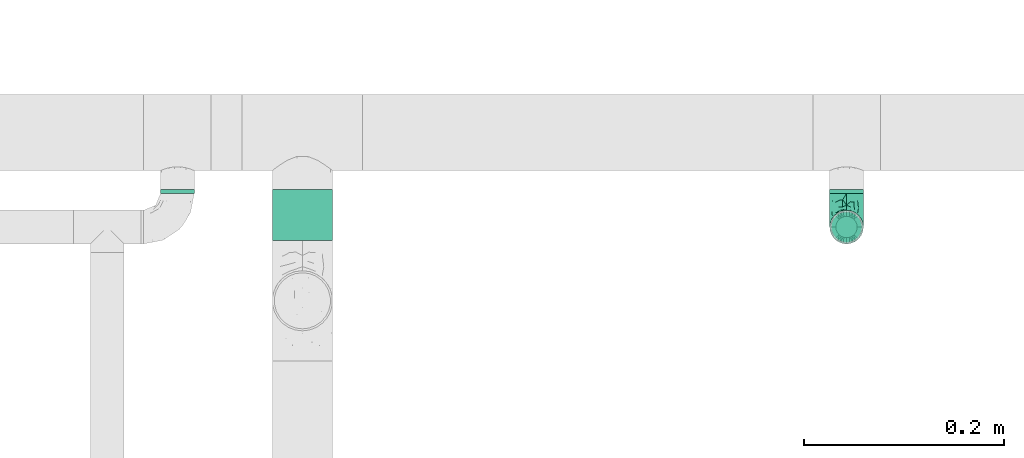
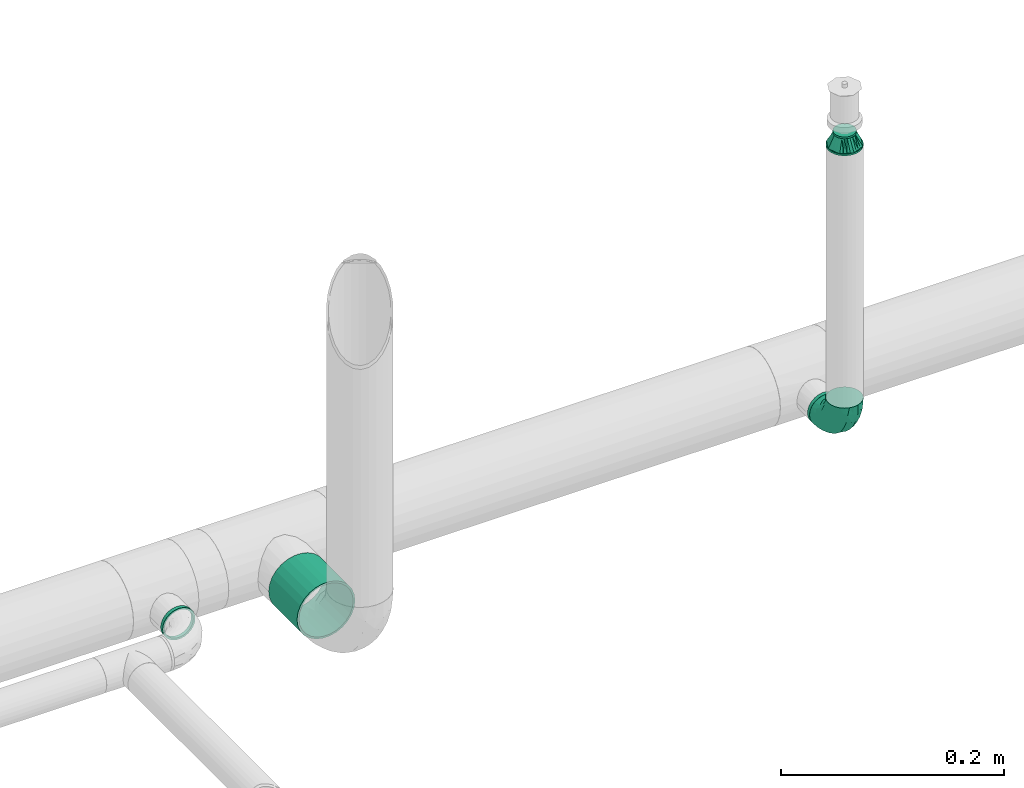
# One storey, part 110 of 157: 3 flow segments, 2 flow fittings.
"""IFC2X3 building model written with IfcOpenShell, lengths in millimetres."""

from ifc_helpers import new_model, entity, si_unit, converted_unit, derived_unit, direction, frame, origin_with_axes, origin_2d_with_axis, place, context, subcontext, project, spatial, hollow_circle, extrude, open_shell, surface_model, source, transform, mapped, type_object, element, save


model = new_model("IFC2X3")

# Units and contexts
model_context = context("Model", 3, precision=0.01, world=frame((0.0, 4.29681676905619e-09, 0.0)), true_north=direction((4.01073788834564e-13, 1.0)))
plan_context = context("Plan", 3, precision=0.01, world=frame((0.0, 4.29681676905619e-09, 0.0)), true_north=direction((4.01073788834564e-13, 1.0)))
body_context = subcontext(model_context, "Body", "Model", "MODEL_VIEW")
ifc_project = project(units=[converted_unit("PLANEANGLEUNIT", "DEGREE", entity("IfcPositiveLengthMeasure", 0.0174532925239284), si_unit("PLANEANGLEUNIT", "RADIAN"), dimensions=[0, 0, 0, 0, 0, 0, 0]), si_unit("AREAUNIT", "SQUARE_METRE"), si_unit("LENGTHUNIT", "METRE", prefix="MILLI"), si_unit("MASSUNIT", "GRAM", prefix="KILO"), si_unit("POWERUNIT", "WATT"), si_unit("PRESSUREUNIT", "PASCAL"), si_unit("FORCEUNIT", "NEWTON", prefix="KILO"), si_unit("ELECTRICCURRENTUNIT", "AMPERE"), si_unit("THERMODYNAMICTEMPERATUREUNIT", "DEGREE_CELSIUS"), si_unit("TIMEUNIT", "SECOND"), si_unit("VOLUMEUNIT", "CUBIC_METRE"), derived_unit("LINEARVELOCITYUNIT", [(si_unit("LENGTHUNIT", "METRE"), 1), (si_unit("TIMEUNIT", "SECOND"), -1)]), derived_unit("VOLUMETRICFLOWRATEUNIT", [(si_unit("VOLUMEUNIT", "CUBIC_METRE"), 1), (si_unit("TIMEUNIT", "SECOND"), -1)]), derived_unit("THERMALTRANSMITTANCEUNIT", [(si_unit("POWERUNIT", "WATT"), 1), (si_unit("THERMODYNAMICTEMPERATUREUNIT", "KELVIN"), -1), (si_unit("AREAUNIT", "SQUARE_METRE"), -1)])], contexts=[model_context, plan_context])

# Site, building, storey
site_placement = place(None, frame((0.0, -4.29681676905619e-09, 0.0), z_axis=(0.0, 0.0, 1.0), x_axis=(1.0, 0.0, 0.0)))
site = spatial("IfcSite", under=ifc_project, at=site_placement, CompositionType="ELEMENT")
building_placement = place(site_placement, frame((0.0, 4.29681676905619e-09, 0.0), z_axis=(0.0, 0.0, 1.0), x_axis=(1.0, 0.0, 0.0)))
building = spatial("IfcBuilding", under=site, at=building_placement, Name="mc-building", CompositionType="ELEMENT")
storey_placement = place(building_placement, frame((0.0, 0.0, 204000.0), z_axis=(0.0, 0.0, 1.0), x_axis=(1.0, 0.0, 0.0)))
storey = spatial("IfcBuildingStorey", under=building, at=storey_placement, Name="Nivå D", CompositionType="ELEMENT", Elevation=204000.0)

# Flow fittings
pipe_fitting_type_1 = type_object("IfcPipeFittingType", Name="magi_pipe_fe_elbow_short_001", PredefinedType="BEND")
shared_shape_1 = source(origin_with_axes(), body_context, "Body", "SurfaceModel", [
    surface_model("IfcShellBasedSurfaceModel", [(-33.8, 8.45, -14.63583), (-33.8, 4.37404, -16.32415), (-33.8, 11.9501, -11.9501), (-33.8, -11.9501, -11.9501), (-33.8, -14.63583, -8.45), (-33.8, -8.45, -14.63583), (-33.8, 0.0, -16.9), (-33.8, -4.37404, -16.32415), (-33.8, -4.37404, 16.32415), (-33.8, 0.0, 16.9), (-33.8, -8.45, 14.63583), (-33.8, 16.32415, -4.37404), (-33.8, 14.63583, -8.45), (-33.8, -16.32415, -4.37404), (-33.8, -16.9, 0.0), (-33.8, -16.32415, 4.37404), (-33.8, 11.9501, 11.9501), (-33.8, 14.63583, 8.45), (-33.8, 16.32415, 4.37404), (-33.8, 4.37404, 16.32415), (-33.8, 8.45, 14.63583), (-33.8, -14.63583, 8.45), (-33.8, -11.9501, 11.9501), (-33.8, 16.9, 0.0), (-11.9501, 33.8, -11.9501), (0.0, 33.8, -16.9), (-4.37404, 33.8, -16.32415), (-8.45, 33.8, -14.63583), (-14.63583, 33.8, -8.45), (-16.32415, 33.8, -4.37404), (14.63583, 33.8, -8.45), (8.45, 33.8, 14.63583), (16.32415, 33.8, -4.37404), (8.45, 33.8, -14.63583), (11.9501, 33.8, -11.9501), (4.37404, 33.8, -16.32415), (16.32415, 33.8, 4.37404), (16.9, 33.8, 0.0), (-11.9501, 33.8, 11.9501), (-16.32415, 33.8, 4.37404), (-14.63583, 33.8, 8.45), (-8.45, 33.8, 14.63583), (-4.37404, 33.8, 16.32415), (11.9501, 33.8, 11.9501), (14.63583, 33.8, 8.45), (0.0, 33.8, 16.9), (4.37404, 33.8, 16.32415), (-16.9, 33.8, 0.0), (-24.79389, -13.12945, 9.48721), (-22.19287, -9.75018, 12.59315), (-24.09897, -14.97035, 0.0), (-14.93934, -10.76256, 8.5297), (-22.46095, -14.75051, 5.27077), (14.75051, 22.46094, 5.27077), (11.9251, 13.23888, 4.33236), (13.04069, 14.39795, 0.0), (7.71387, 13.68847, 11.55891), (9.75018, 22.19287, 12.59315), (4.10169, 13.0571, 14.04018), (-24.84007, -6.39063, 15.2048), (-25.81779, -2.23879, 16.61097), (-23.66549, 2.59054, 16.87119), (-26.50418, 14.06512, 11.08152), (-24.21253, 17.66365, 7.72657), (-29.58514, 15.86957, 7.00283), (-6.17382, -7.5455, 0.0), (-13.23888, -11.9251, 4.33236), (-14.39795, -13.04069, 0.0), (-17.81434, 18.87373, 11.97104), (-6.30846, 29.15138, 15.82987), (-2.31622, 25.28002, 16.85849), (-29.23923, 10.23435, 13.77053), (-1.45439, -2.85688, 7.61475), (-0.28326, 0.34872, 10.09509), (-5.74484, -4.04709, 10.4122), (-4.41137, 11.31918, 16.59407), (-8.39727, 3.10034, 15.7812), (-1.72649, 9.1306, 15.53089), (-17.39909, 24.75344, 7.64977), (-26.19233, 20.0512, 0.0), (-28.14518, 17.29657, 4.25857), (-26.05147, 6.6281, 15.96447), (-5.87354, 16.61944, 16.86968), (-12.51807, 12.51807, 16.48937), (-10.06312, 7.38516, 16.81295), (-3.01882, 3.01882, 13.81718), (-13.0571, -4.10169, 14.04018), (-16.82553, -0.15166, 16.38038), (10.76256, 14.93934, 8.5297), (13.12945, 24.79389, 9.48721), (6.39063, 24.84007, 15.2048), (2.23879, 25.81779, 16.61097), (-13.68847, -7.71387, 11.55891), (14.97035, 24.09897, 0.0), (-7.30894, 22.89991, 16.09489), (-10.67958, 26.17414, 14.008), (-12.78295, 18.26924, 15.06066), (-13.88562, 22.45231, 12.93244), (-18.04944, 15.16501, 14.04434), (-23.11658, 20.08178, 4.02986), (-21.84989, 21.84989, 0.0), (-18.55817, 25.48277, 3.93065), (-13.95142, 26.94732, 11.03289), (-18.57098, 7.23906, 16.59756), (-16.58335, 4.14122, 16.89279), (-17.96666, 11.46709, 15.63151), (-9.84453, 17.54304, 16.18938), (0.15166, 16.82553, 16.38038), (-23.27207, 11.47201, 14.23154), (3.84842, 5.86994, 10.70473), (-8.0212, -7.54413, 7.93275), (1.00345, -2.19508, 4.57414), (5.13203, 3.01004, 5.90201), (5.24161, 1.7543, 2.53265), (8.70457, 7.04947, 3.99182), (-20.0512, 26.19233, 0.0), (8.4852, 8.76699, 7.09296), (-4.55488, -6.72064, 4.90681), (2.05031, -2.05031, 0.0), (7.5455, 6.17382, 0.0), (-26.75399, 2.1369, -16.845), (-14.61995, 24.73803, -11.27736), (-28.45274, -13.45335, -9.81895), (-26.00469, 6.63555, -15.96645), (-23.06726, 20.04573, -4.26202), (-13.80647, -4.26506, -14.17873), (-14.67501, -0.21081, -16.07388), (-6.7902, -0.2828, -13.8478), (-24.53586, 11.08096, -14.13417), (-26.72048, 14.00837, -11.05776), (10.0967, 24.44989, -12.75976), (5.83237, 21.40218, -15.03047), (6.66249, 28.54238, -15.38093), (-20.38182, 15.48705, -12.74596), (12.53268, 21.23441, -9.15363), (12.54494, 15.67504, -5.54878), (9.7522, 12.89279, -8.66343), (-15.65186, 19.64213, -13.01327), (-12.03528, 20.66498, -14.67665), (-15.61907, 15.61906, -14.83879), (-25.56551, -15.26206, 0.0), (-24.65452, -15.12934, -5.50955), (13.45335, 28.45274, -9.81895), (15.12934, 24.65452, -5.50955), (-7.35442, -8.31014, -5.65563), (-15.67504, -12.54494, -5.54878), (-24.44989, -10.0967, -12.75976), (0.16522, 0.41303, -9.71728), (-5.70658, -5.33066, -8.89288), (-5.13869, -2.37198, -11.53565), (-21.23441, -12.53268, -9.15363), (0.71146, 7.93863, -14.09382), (0.21081, 14.67501, -16.07388), (3.49291, 14.42772, -14.76381), (-24.89911, -2.13088, -16.591), (-28.54238, -6.66249, -15.38093), (-18.44386, -7.71663, -13.26957), (2.13088, 24.89911, -16.591), (-28.64342, 17.44413, -2.89318), (1.70017, -1.28722, -5.09504), (-16.57067, 26.81947, -7.36596), (-17.69055, 27.4263, -3.76405), (-12.89279, -9.7522, -8.66343), (-5.96611, 5.96611, -15.95814), (-20.53709, 20.09345, -8.28985), (-2.1369, 26.75399, -16.845), (-6.89872, 24.58781, -16.02578), (-10.60739, 26.53157, -13.98044), (-21.40218, -5.83237, -15.03047), (2.93192, 5.89627, -11.55917), (6.89393, 12.61842, -11.82233), (5.58056, 5.95325, -8.79455), (-3.99512, 18.61798, -16.89635), (8.31014, 7.35442, -5.65563), (-9.1383, 9.86148, -16.89041), (-9.99983, 16.02119, -16.39699), (-16.68576, 9.78031, -16.34199), (-27.01915, 16.61158, -7.12979), (15.26206, 25.56551, 0.0), (-18.61798, 3.99512, -16.89635), (-19.37495, 27.82495, 0.0), (-12.61842, -6.89393, -11.82233), (-18.84705, 19.14018, -10.96545)], [open_shell([[[0, 1, 2]], [[3, 4, 5]], [[6, 7, 5]], [[8, 9, 10]], [[1, 6, 2]], [[11, 12, 2]], [[4, 2, 6]], [[2, 13, 10]], [[5, 4, 6]], [[2, 4, 13]], [[14, 15, 13]], [[11, 2, 16]], [[11, 17, 18]], [[11, 16, 17]], [[19, 20, 16]], [[16, 2, 10]], [[19, 16, 10]], [[21, 22, 15]], [[22, 13, 15]], [[22, 10, 13]], [[10, 9, 19]], [[11, 18, 23]], [[24, 25, 26]], [[24, 26, 27]], [[24, 28, 29]], [[25, 24, 30]], [[31, 32, 24]], [[33, 30, 34]], [[33, 35, 25]], [[25, 30, 33]], [[32, 30, 24]], [[32, 36, 37]], [[38, 24, 29]], [[39, 40, 29]], [[40, 38, 29]], [[38, 41, 42]], [[38, 31, 24]], [[31, 38, 42]], [[36, 43, 44]], [[36, 32, 43]], [[31, 45, 46]], [[32, 31, 43]], [[42, 45, 31]], [[39, 29, 47]], [[22, 48, 49]], [[15, 14, 50]], [[51, 48, 52]], [[53, 54, 55]], [[48, 22, 21]], [[15, 52, 21]], [[56, 57, 58]], [[49, 10, 22]], [[49, 59, 10]], [[9, 60, 61]], [[62, 63, 64]], [[65, 66, 67]], [[57, 43, 31]], [[62, 68, 63]], [[42, 69, 70]], [[20, 71, 16]], [[8, 60, 9]], [[72, 73, 74]], [[75, 76, 77]], [[16, 62, 17]], [[40, 39, 78]], [[79, 23, 80]], [[64, 18, 17]], [[9, 61, 19]], [[19, 81, 20]], [[82, 83, 84]], [[74, 85, 86]], [[59, 86, 87]], [[88, 89, 57]], [[90, 31, 46]], [[44, 53, 36]], [[46, 45, 91]], [[54, 53, 88]], [[44, 89, 53]], [[92, 86, 49]], [[89, 44, 43]], [[10, 59, 8]], [[53, 55, 93]], [[93, 36, 53]], [[66, 52, 67]], [[94, 82, 70]], [[95, 96, 94]], [[97, 98, 96]], [[79, 99, 100]], [[41, 38, 95]], [[101, 100, 99]], [[68, 78, 63]], [[42, 41, 69]], [[23, 18, 80]], [[95, 94, 69]], [[78, 101, 99]], [[38, 102, 95]], [[70, 45, 42]], [[97, 95, 102]], [[15, 50, 52]], [[90, 57, 31]], [[57, 90, 58]], [[81, 19, 61]], [[103, 104, 84]], [[105, 81, 103]], [[38, 40, 102]], [[106, 96, 83]], [[94, 106, 82]], [[91, 70, 107]], [[71, 62, 16]], [[62, 108, 98]], [[86, 59, 49]], [[67, 52, 50]], [[60, 59, 87]], [[92, 49, 51]], [[86, 85, 76]], [[91, 90, 46]], [[37, 36, 93]], [[107, 77, 58]], [[107, 58, 90]], [[58, 85, 109]], [[110, 74, 92]], [[72, 74, 110]], [[66, 51, 52]], [[72, 111, 112]], [[113, 114, 112]], [[56, 88, 57]], [[52, 48, 21]], [[49, 48, 51]], [[57, 89, 43]], [[53, 89, 88]], [[103, 81, 61]], [[71, 81, 108]], [[18, 64, 80]], [[63, 78, 99]], [[47, 115, 101]], [[101, 115, 100]], [[40, 78, 102]], [[68, 102, 78]], [[97, 96, 95]], [[105, 98, 108]], [[103, 84, 83]], [[107, 70, 82]], [[76, 84, 87]], [[82, 84, 75]], [[70, 91, 45]], [[90, 91, 107]], [[59, 60, 8]], [[61, 60, 87]], [[73, 85, 74]], [[109, 112, 116]], [[103, 61, 104]], [[105, 103, 83]], [[96, 105, 83]], [[81, 105, 108]], [[96, 98, 105]], [[62, 98, 68]], [[61, 87, 104]], [[87, 84, 104]], [[86, 76, 87]], [[77, 76, 85]], [[58, 77, 85]], [[75, 77, 107]], [[82, 75, 107]], [[76, 75, 84]], [[81, 71, 20]], [[62, 71, 108]], [[95, 69, 41]], [[70, 69, 94]], [[62, 64, 17]], [[80, 63, 99]], [[63, 80, 64]], [[80, 99, 79]], [[66, 65, 117]], [[110, 66, 117]], [[112, 114, 116]], [[118, 117, 65]], [[110, 92, 51]], [[112, 111, 113]], [[119, 55, 54]], [[74, 86, 92]], [[58, 109, 56]], [[116, 56, 109]], [[66, 110, 51]], [[72, 110, 117]], [[111, 72, 117]], [[73, 112, 109]], [[117, 118, 111]], [[113, 111, 118]], [[118, 119, 113]], [[114, 119, 54]], [[119, 114, 113]], [[116, 54, 88]], [[54, 116, 114]], [[116, 88, 56]], [[112, 73, 72]], [[85, 73, 109]], [[78, 39, 101]], [[47, 101, 39]], [[102, 68, 97]], [[97, 68, 98]], [[82, 106, 83]], [[94, 96, 106]], [[1, 120, 6]], [[28, 24, 121]], [[3, 122, 4]], [[0, 123, 1]], [[100, 124, 79]], [[125, 126, 127]], [[128, 2, 129]], [[130, 131, 132]], [[128, 129, 133]], [[134, 135, 136]], [[137, 138, 139]], [[128, 0, 2]], [[67, 140, 141]], [[134, 142, 143]], [[141, 13, 4]], [[144, 65, 145]], [[146, 3, 5]], [[147, 148, 149]], [[145, 141, 150]], [[151, 152, 153]], [[154, 7, 6]], [[5, 155, 146]], [[150, 146, 156]], [[155, 5, 7]], [[143, 135, 134]], [[35, 157, 25]], [[23, 79, 158]], [[148, 159, 144]], [[160, 161, 29]], [[145, 162, 144]], [[163, 152, 151]], [[29, 28, 160]], [[121, 164, 160]], [[33, 34, 130]], [[25, 165, 26]], [[26, 165, 166]], [[142, 34, 30]], [[24, 27, 167]], [[124, 161, 164]], [[157, 35, 132]], [[155, 154, 168]], [[123, 0, 128]], [[169, 170, 171]], [[172, 157, 152]], [[26, 166, 27]], [[132, 35, 33]], [[142, 130, 34]], [[168, 154, 126]], [[136, 135, 173]], [[133, 137, 139]], [[2, 12, 129]], [[170, 131, 130]], [[30, 32, 143]], [[172, 174, 175]], [[176, 123, 128]], [[158, 177, 11]], [[135, 55, 119]], [[167, 27, 166]], [[175, 166, 172]], [[137, 167, 138]], [[122, 141, 4]], [[140, 14, 13]], [[32, 37, 178]], [[170, 130, 134]], [[152, 157, 131]], [[165, 157, 172]], [[153, 170, 151]], [[152, 163, 174]], [[168, 125, 156]], [[122, 146, 150]], [[120, 154, 6]], [[179, 174, 126]], [[179, 126, 154]], [[126, 163, 127]], [[162, 145, 150]], [[140, 13, 141]], [[32, 178, 143]], [[55, 143, 178]], [[177, 129, 12]], [[128, 133, 139]], [[176, 128, 139]], [[120, 123, 179]], [[121, 160, 28]], [[161, 100, 180]], [[166, 175, 138]], [[121, 24, 167]], [[161, 47, 29]], [[79, 124, 158]], [[124, 164, 177]], [[161, 124, 100]], [[136, 171, 170]], [[127, 163, 151]], [[147, 171, 159]], [[148, 144, 162]], [[127, 151, 169]], [[127, 181, 125]], [[129, 177, 164]], [[12, 11, 177]], [[159, 65, 144]], [[67, 141, 145]], [[143, 55, 135]], [[135, 119, 173]], [[123, 120, 1]], [[154, 120, 179]], [[157, 165, 25]], [[166, 165, 172]], [[172, 152, 174]], [[176, 139, 175]], [[126, 174, 163]], [[176, 174, 179]], [[174, 176, 175]], [[123, 176, 179]], [[150, 181, 162]], [[127, 149, 181]], [[181, 148, 162]], [[159, 148, 147]], [[171, 136, 173]], [[170, 134, 136]], [[159, 171, 173]], [[171, 147, 169]], [[169, 147, 149]], [[151, 170, 169]], [[164, 182, 129]], [[182, 121, 137]], [[181, 149, 148]], [[169, 149, 127]], [[182, 137, 133]], [[167, 137, 121]], [[166, 138, 167]], [[175, 139, 138]], [[129, 182, 133]], [[121, 182, 164]], [[161, 160, 164]], [[47, 161, 180]], [[177, 158, 124]], [[23, 158, 11]], [[130, 132, 33]], [[157, 132, 131]], [[143, 142, 30]], [[130, 142, 134]], [[154, 155, 7]], [[146, 155, 168]], [[146, 122, 3]], [[141, 122, 150]], [[152, 131, 153]], [[159, 119, 118]], [[67, 145, 65]], [[170, 153, 131]], [[119, 159, 173]], [[159, 118, 65]], [[156, 125, 181]], [[126, 125, 168]], [[150, 156, 181]], [[168, 156, 146]]])]),
])
flow_fitting_1_placement = place(storey_placement, frame((525240.35, 413944.735, 2690.0), z_axis=(1.0, 0.0, 0.0), x_axis=(0.0, 0.0, -1.0)))
element("IfcFlowFitting", 1, at=flow_fitting_1_placement, inside=storey, type_object=pipe_fitting_type_1, Name="magi_pipe_fe_elbow_short_001", context=body_context, shape_type="MappedRepresentation", body=[
    mapped(shared_shape_1, transform((0.0, 0.0, 0.0), scale=1.0)),
])
pipe_fitting_type_2 = type_object("IfcPipeFittingType", Name="magi_pipe_fe_reducer_centric_short_NOR", PredefinedType="TRANSITION")
shared_shape_2 = source(origin_with_axes(), body_context, "Body", "SurfaceModel", [
    surface_model("IfcShellBasedSurfaceModel", [(-2.0, -7.56604, -7.56604), (-2.0, -10.33541, -2.76936), (-2.0, -5.35, -9.26647), (-2.0, 5.35, -9.26647), (-2.0, 10.33541, -2.76936), (-2.0, 7.56604, -7.56604), (12.4, 11.9501, 11.9501), (12.4, 0.0, 16.9), (12.4, 11.9501, -11.9501), (12.4, 16.9, 0.0), (0.0, -10.7, 0.0), (0.0, -5.35, 9.26647), (0.0, -5.35, -9.26647), (0.0, 10.7, 0.0), (12.4, 15.66253, -2.98753), (12.4, 8.96258, -13.18758), (0.0, 6.6875, -6.94985), (12.4, -15.66253, -2.98753), (12.4, -16.9, 0.0), (12.4, 5.97505, -14.42505), (0.0, 5.35, -9.26647), (12.4, 14.42505, -5.97505), (0.0, 8.025, -4.63324), (0.0, 9.3625, -2.31662), (0.0, -9.3625, -2.31662), (0.0, -8.025, -4.63324), (12.4, -14.42505, -5.97505), (12.4, 13.18758, -8.96258), (12.4, -13.18758, -8.96258), (12.4, -11.9501, -11.9501), (0.0, -6.6875, -6.94985), (12.4, -8.96258, -13.18758), (12.4, -5.97505, -14.42505), (12.4, -15.66253, 2.98753), (12.4, -8.96258, 13.18758), (0.0, -6.6875, 6.94985), (12.4, -11.9501, 11.9501), (12.4, 15.66253, 2.98753), (12.4, -5.97505, 14.42505), (12.4, -14.42505, 5.97505), (0.0, -8.025, 4.63324), (0.0, -9.3625, 2.31662), (0.0, 9.3625, 2.31662), (0.0, 8.025, 4.63324), (12.4, 14.42505, 5.97505), (12.4, -13.18758, 8.96258), (12.4, 13.18758, 8.96258), (0.0, 6.6875, 6.94985), (12.4, 8.96258, 13.18758), (0.0, 5.35, 9.26647), (12.4, 5.97505, 14.42505), (14.4, 4.37404, -16.32415), (14.4, 8.45, -14.63583), (14.4, 11.9501, -11.9501), (14.4, -8.45, -14.63583), (14.4, 16.32415, -4.37404), (14.4, 16.32415, 4.37404), (14.4, 14.63583, -8.45), (14.4, 0.0, -16.9), (14.4, -4.37404, -16.32415), (14.4, -11.9501, -11.9501), (14.4, -16.32415, -4.37404), (14.4, -14.63583, -8.45), (14.4, -16.32415, 4.37404), (14.4, 16.9, 0.0), (14.4, 14.63583, 8.45), (14.4, 11.9501, 11.9501), (14.4, 4.37404, 16.32415), (14.4, 8.45, 14.63583), (14.4, 0.0, 16.9), (14.4, -14.63583, 8.45), (14.4, -16.9, 0.0), (14.4, -8.45, 14.63583), (14.4, -11.9501, 11.9501), (14.4, -4.37404, 16.32415), (12.4, 4.37404, 16.32415), (12.4, -14.63583, 8.45), (12.4, 16.32415, 4.37404), (12.4, 8.45, 14.63583), (12.4, 14.63583, 8.45), (12.4, -8.45, 14.63583), (12.4, -4.37404, 16.32415), (12.4, -16.32415, 4.37404), (12.4, -16.32415, -4.37404), (12.4, -8.45, -14.63583), (12.4, 16.32415, -4.37404), (12.4, 14.63583, -8.45), (12.4, 8.45, -14.63583), (12.4, 4.37404, -16.32415), (12.4, 0.0, -16.9), (12.4, -14.63583, -8.45), (12.4, -4.37404, -16.32415), (-2.0, 2.76936, 10.33541), (-2.0, 0.0, 10.7), (-2.0, 5.35, 9.26647), (-2.0, 7.56604, 7.56604), (-2.0, 9.26647, 5.35), (-2.0, 10.33541, 2.76936), (-2.0, -10.33541, 2.76936), (-2.0, -2.76936, 10.33541), (-2.0, -7.56604, 7.56604), (-2.0, -5.35, 9.26647), (-2.0, -9.26647, 5.35), (-2.0, -10.7, 0.0), (-2.0, 9.26647, -5.35), (-2.0, 2.76936, -10.33541), (-2.0, -9.26647, -5.35), (-2.0, 0.0, -10.7), (-2.0, -2.76936, -10.33541), (-2.0, 10.7, 0.0), (0.0, 0.0, -10.7), (0.0, 2.76936, -10.33541), (0.0, 10.33541, -2.76936), (0.0, 7.56604, -7.56604), (0.0, -10.33541, -2.76936), (0.0, 9.26647, -5.35), (0.0, 0.0, 10.7), (0.0, -2.76936, -10.33541), (0.0, -7.56604, -7.56604), (0.0, -9.26647, -5.35), (0.0, 10.33541, 2.76936), (0.0, 9.26647, 5.35), (0.0, 7.56604, 7.56604), (0.0, 2.76936, 10.33541), (0.0, -7.56604, 7.56604), (0.0, -10.33541, 2.76936), (0.0, -9.26647, 5.35), (0.0, -2.76936, 10.33541), (0.0, 2.675, -9.26647), (0.0, -2.675, -9.26647), (12.4, 2.98753, -15.66253), (0.0, 0.0, -9.26647), (12.4, -2.98753, -15.66253), (0.0, -2.675, 9.26647), (0.0, 2.675, 9.26647), (12.4, -2.98753, 15.66253), (0.0, 0.0, 9.26647), (12.4, 2.98753, 15.66253)], [open_shell([[[0, 1, 2]], [[3, 4, 5]], [[6, 7, 8]], [[8, 9, 6]], [[10, 11, 12]], [[13, 9, 14]], [[15, 16, 8]], [[17, 18, 10]], [[15, 19, 20]], [[21, 22, 23]], [[24, 25, 26]], [[22, 21, 27]], [[28, 26, 25]], [[29, 30, 31]], [[12, 32, 31]], [[10, 18, 33]], [[34, 35, 36]], [[37, 9, 13]], [[34, 38, 11]], [[39, 40, 41]], [[42, 43, 44]], [[40, 39, 45]], [[46, 44, 43]], [[6, 47, 48]], [[49, 50, 48]], [[51, 52, 53]], [[54, 51, 53]], [[53, 55, 56]], [[55, 53, 57]], [[53, 56, 54]], [[58, 54, 59]], [[58, 51, 54]], [[60, 61, 62]], [[61, 60, 54]], [[54, 63, 61]], [[56, 55, 64]], [[56, 65, 66]], [[56, 66, 67]], [[67, 63, 54]], [[67, 66, 68]], [[63, 67, 69]], [[69, 70, 63]], [[71, 61, 63]], [[70, 72, 73]], [[70, 69, 72]], [[72, 69, 74]], [[54, 56, 67]], [[75, 76, 7]], [[77, 75, 78]], [[6, 79, 77]], [[6, 77, 78]], [[76, 75, 77]], [[80, 76, 36]], [[80, 81, 7]], [[7, 76, 80]], [[82, 76, 77]], [[82, 83, 18]], [[82, 77, 84]], [[77, 85, 8]], [[8, 85, 86]], [[8, 87, 88]], [[84, 77, 8]], [[88, 89, 8]], [[83, 29, 90]], [[29, 83, 84]], [[84, 89, 91]], [[83, 82, 84]], [[8, 89, 84]], [[85, 77, 9]], [[83, 61, 18]], [[90, 62, 83]], [[54, 29, 84]], [[90, 29, 60]], [[59, 84, 91]], [[83, 62, 61]], [[61, 71, 18]], [[59, 54, 84]], [[60, 29, 54]], [[60, 62, 90]], [[58, 59, 91]], [[91, 89, 58]], [[88, 51, 89]], [[87, 52, 88]], [[57, 8, 86]], [[87, 8, 53]], [[55, 86, 85]], [[87, 53, 52]], [[52, 51, 88]], [[64, 55, 85]], [[57, 86, 55]], [[57, 53, 8]], [[9, 64, 85]], [[89, 51, 58]], [[77, 56, 9]], [[79, 65, 77]], [[68, 6, 78]], [[79, 6, 66]], [[67, 78, 75]], [[77, 65, 56]], [[56, 64, 9]], [[67, 68, 78]], [[66, 6, 68]], [[66, 65, 79]], [[69, 67, 75]], [[75, 7, 69]], [[81, 74, 7]], [[80, 72, 81]], [[70, 36, 76]], [[80, 36, 73]], [[63, 76, 82]], [[80, 73, 72]], [[72, 74, 81]], [[71, 63, 82]], [[70, 76, 63]], [[70, 73, 36]], [[18, 71, 82]], [[7, 74, 69]], [[92, 1, 93]], [[94, 1, 92]], [[95, 96, 97]], [[95, 97, 94]], [[98, 93, 1]], [[99, 100, 101]], [[99, 93, 100]], [[100, 98, 102]], [[93, 98, 100]], [[98, 1, 103]], [[94, 97, 1]], [[1, 97, 4]], [[5, 4, 104]], [[4, 3, 1]], [[105, 1, 3]], [[1, 0, 106]], [[2, 107, 108]], [[2, 1, 105]], [[105, 107, 2]], [[4, 97, 109]], [[20, 110, 111]], [[112, 20, 113]], [[114, 20, 112]], [[112, 113, 115]], [[116, 114, 112]], [[110, 12, 117]], [[110, 20, 12]], [[118, 114, 119]], [[114, 118, 12]], [[20, 114, 12]], [[112, 13, 120]], [[120, 121, 122]], [[120, 122, 123]], [[116, 112, 123]], [[123, 122, 49]], [[116, 124, 114]], [[125, 124, 126]], [[10, 114, 125]], [[124, 127, 11]], [[125, 114, 124]], [[127, 124, 116]], [[123, 112, 120]], [[1, 114, 103]], [[106, 119, 1]], [[12, 0, 2]], [[106, 0, 118]], [[117, 2, 108]], [[1, 119, 114]], [[114, 10, 103]], [[117, 12, 2]], [[118, 0, 12]], [[118, 119, 106]], [[110, 117, 108]], [[108, 107, 110]], [[105, 111, 107]], [[3, 20, 105]], [[115, 5, 104]], [[3, 5, 113]], [[112, 104, 4]], [[3, 113, 20]], [[20, 111, 105]], [[13, 112, 4]], [[115, 104, 112]], [[115, 113, 5]], [[109, 13, 4]], [[107, 111, 110]], [[97, 120, 109]], [[96, 121, 97]], [[49, 95, 94]], [[96, 95, 122]], [[123, 94, 92]], [[97, 121, 120]], [[120, 13, 109]], [[123, 49, 94]], [[122, 95, 49]], [[122, 121, 96]], [[116, 123, 92]], [[92, 93, 116]], [[99, 127, 93]], [[101, 11, 99]], [[126, 100, 102]], [[101, 100, 124]], [[125, 102, 98]], [[101, 124, 11]], [[11, 127, 99]], [[10, 125, 98]], [[126, 102, 125]], [[126, 124, 100]], [[103, 10, 98]], [[93, 127, 116]], [[18, 7, 36]], [[18, 29, 8]], [[89, 8, 29]], [[18, 8, 7]], [[13, 11, 49]], [[13, 20, 12]], [[13, 12, 11]], [[24, 26, 17]], [[10, 24, 17]], [[16, 15, 20]], [[30, 12, 31]], [[23, 14, 21]], [[19, 128, 20]], [[27, 8, 16]], [[32, 12, 129]], [[30, 28, 25]], [[130, 131, 128]], [[129, 132, 32]], [[16, 22, 27]], [[13, 14, 23]], [[128, 19, 130]], [[130, 89, 131]], [[131, 132, 129]], [[89, 132, 131]], [[28, 30, 29]], [[42, 44, 37]], [[13, 42, 37]], [[35, 34, 11]], [[47, 49, 48]], [[41, 33, 39]], [[38, 133, 11]], [[45, 36, 35]], [[50, 49, 134]], [[47, 46, 43]], [[135, 136, 133]], [[134, 137, 50]], [[35, 40, 45]], [[10, 33, 41]], [[133, 38, 135]], [[135, 7, 136]], [[136, 137, 134]], [[7, 137, 136]], [[46, 47, 6]]])]),
])
flow_fitting_2_placement = place(storey_placement, frame((525240.35, 413944.735, 3014.54800000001), z_axis=(0.0, -1.0, 0.0), x_axis=(0.0, 0.0, -1.0)))
element("IfcFlowFitting", 2, at=flow_fitting_2_placement, inside=storey, type_object=pipe_fitting_type_2, Name="magi_pipe_fe_reducer_centric_short_NOR", context=body_context, shape_type="MappedRepresentation", body=[
    mapped(shared_shape_2, transform((0.0, 0.0, 0.0), scale=1.0)),
])

# Flow segments
pipe_segment_type = type_object("IfcPipeSegmentType", Name="Stålrør normaltykke", PredefinedType="RIGIDSEGMENT")
shared_shape_3 = source(origin_with_axes(), body_context, "Body", "SweptSolid", [
    extrude(hollow_circle(Radius=30.1, WallThickness=2.0, at=origin_2d_with_axis()), frame((0.0, 0.0, 0.0), z_axis=(1.0, 0.0, 0.0), x_axis=(0.0, 1.0, 0.0)), (0.0, 0.0, 1.0), 50.9),
])
flow_segment_placement = place(storey_placement, frame((524695.35, 413931.28552, 2690.0), z_axis=(0.0, 0.0, 1.0), x_axis=(0.0, 1.0, 0.0)))
element("IfcFlowSegment", 3, at=flow_segment_placement, inside=storey, type_object=pipe_segment_type, Name="Stålrør normaltykke", context=body_context, shape_type="MappedRepresentation", body=[
    mapped(shared_shape_3, transform((0.0, 0.0, 0.0), scale=1.0)),
])
shared_shape_4 = source(origin_with_axes(), body_context, "Body", "SweptSolid", [
    extrude(hollow_circle(Radius=16.9, WallThickness=2.0, at=origin_2d_with_axis()), frame((0.0, 0.0, 0.0), z_axis=(1.0, 0.0, 0.0), x_axis=(0.0, 1.0, 0.0)), (0.0, 0.0, 1.0), 3.7),
])
for number, where, z_axis, x_axis in (
    (4, (524570.18066, 413982.20389, 2690.0), (0.0, 0.0, 1.0), (0.0, -1.0, 0.0)),
    (5, (525240.35, 413982.20389, 2690.0), (0.0, 0.0, 1.0), (0.0, -1.0, 0.0)),
):
    element("IfcFlowSegment", number, at=place(storey_placement, frame(where, z_axis=z_axis, x_axis=x_axis)), inside=storey, type_object=pipe_segment_type, Name="Stålrør normaltykke", context=body_context, shape_type="MappedRepresentation", body=[
        mapped(shared_shape_4, transform((0.0, 0.0, 0.0), scale=1.0)),
    ])

save(model, "model.ifc")
